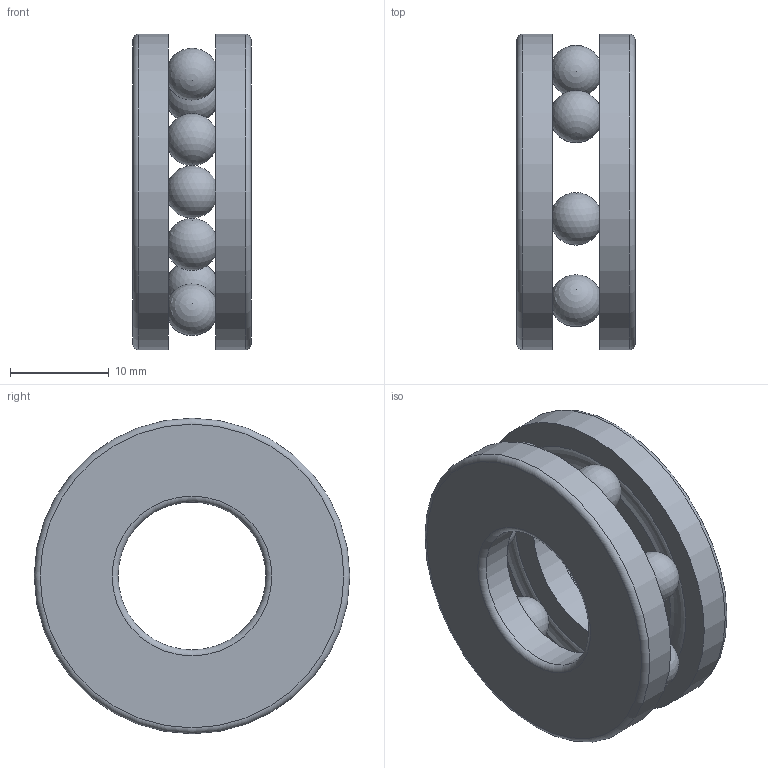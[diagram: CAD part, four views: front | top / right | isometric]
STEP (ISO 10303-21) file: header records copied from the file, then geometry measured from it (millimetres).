
FILE_DESCRIPTION(/* description */ ('롤링 베어링 - 플랫 뒷면이 있는 스러스트 볼 베어링'),/* implementation_level */ '2;1');
FILE_NAME(/* name */ '',/* time_stamp */ '2026-07-30T15:25:45+09:00',/* author */ ('jhkim'),/* organization */ (''),/* preprocessor_version */ 'ST-DEVELOPER v20.1',/* originating_system */ 'Autodesk Inventor 2027',/* authorisation */ '');
FILE_SCHEMA (('AUTOMOTIVE_DESIGN { 1 0 10303 214 3 1 1 }'));
Length unit declared in the file: millimetre
Products named in the file (1): 스러스트 볼 베어링 
51202
Bounding box: 12 x 32 x 32 mm (x, y, z)
Volume: 4798.8 mm3; surface area: 4041.4 mm2
Topology: 9 solids, 9 shells, 35 faces, 101 edges, 72 vertices
Faces by surface type: torus 18, sphere 7, plane 6, cylinder 4
Full cylindrical faces by diameter (mm): 15 x1, 17 x1, 32 x2
Entity records: 1441 total; most frequent: DIRECTION 284, CARTESIAN_POINT 244, ORIENTED_EDGE 216, AXIS2_PLACEMENT_3D 140, EDGE_CURVE 108, CIRCLE 104, VERTEX_POINT 100, EDGE_LOOP 48
